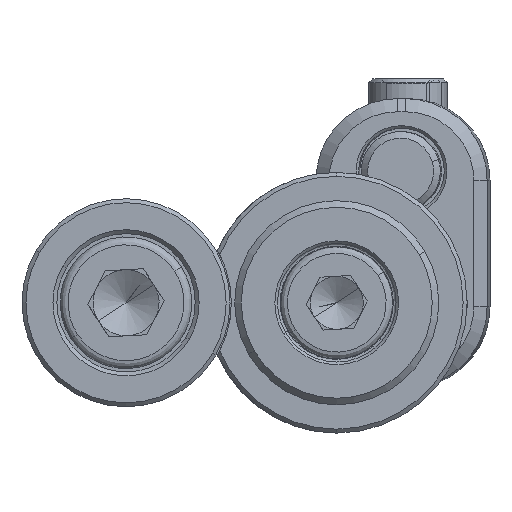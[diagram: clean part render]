
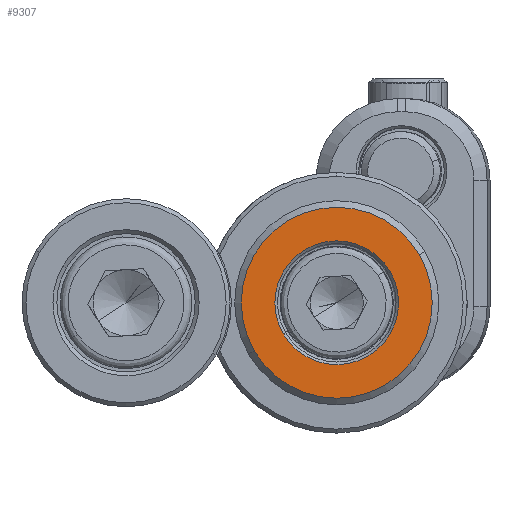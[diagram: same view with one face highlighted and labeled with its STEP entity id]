
A CAD part, front view. The second image highlights one B-rep face of the part: STEP entity #9307.
In plain terms, the highlighted planar face has unit normal (0, -1, 0).
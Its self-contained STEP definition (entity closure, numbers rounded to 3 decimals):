
#14 = DIRECTION ( 'NONE',  ( 0., 1., 0. ) ) ;
#100 = VERTEX_POINT ( 'NONE', #8337 ) ;
#398 = EDGE_CURVE ( 'NONE', #9490, #12306, #13452, .T. ) ;
#536 = DIRECTION ( 'NONE',  ( -0.865, 0., -0.503 ) ) ;
#756 = CIRCLE ( 'NONE', #3047, 7.25 ) ;
#1258 = FACE_BOUND ( 'NONE', #8145, .T. ) ;
#1328 = DIRECTION ( 'NONE',  ( -0.865, 0., -0.503 ) ) ;
#2067 = EDGE_CURVE ( 'NONE', #12306, #9490, #756, .T. ) ;
#2195 = DIRECTION ( 'NONE',  ( 0., 1., 0. ) ) ;
#2501 = ORIENTED_EDGE ( 'NONE', *, *, #11609, .T. ) ;
#2568 = EDGE_LOOP ( 'NONE', ( #3401, #5675 ) ) ;
#3047 = AXIS2_PLACEMENT_3D ( 'NONE', #7030, #10502, #7094 ) ;
#3400 = DIRECTION ( 'NONE',  ( -0.865, 0., -0.503 ) ) ;
#3401 = ORIENTED_EDGE ( 'NONE', *, *, #2067, .T. ) ;
#3555 = EDGE_CURVE ( 'NONE', #14048, #100, #4235, .T. ) ;
#4235 = CIRCLE ( 'NONE', #7894, 4.7 ) ;
#5059 = AXIS2_PLACEMENT_3D ( 'NONE', #8128, #11438, #536 ) ;
#5621 = PLANE ( 'NONE',  #6528 ) ;
#5675 = ORIENTED_EDGE ( 'NONE', *, *, #398, .T. ) ;
#6528 = AXIS2_PLACEMENT_3D ( 'NONE', #9614, #2195, #3400 ) ;
#6596 = AXIS2_PLACEMENT_3D ( 'NONE', #12102, #9820, #1328 ) ;
#6602 = CARTESIAN_POINT ( 'NONE',  ( -6.268, -4., -3.643 ) ) ;
#6881 = CARTESIAN_POINT ( 'NONE',  ( 6.268, -4., 3.643 ) ) ;
#7030 = CARTESIAN_POINT ( 'NONE',  ( 0., -4., 0. ) ) ;
#7094 = DIRECTION ( 'NONE',  ( -0.865, 0., -0.503 ) ) ;
#7700 = DIRECTION ( 'NONE',  ( -0.865, 0., -0.503 ) ) ;
#7894 = AXIS2_PLACEMENT_3D ( 'NONE', #10691, #14, #7700 ) ;
#7906 = ORIENTED_EDGE ( 'NONE', *, *, #3555, .T. ) ;
#8128 = CARTESIAN_POINT ( 'NONE',  ( 0., -4., 0. ) ) ;
#8145 = EDGE_LOOP ( 'NONE', ( #2501, #7906 ) ) ;
#8337 = CARTESIAN_POINT ( 'NONE',  ( 4.063, -4., 2.362 ) ) ;
#9307 = ADVANCED_FACE ( 'NONE', ( #1258, #11160 ), #5621, .F. ) ;
#9490 = VERTEX_POINT ( 'NONE', #6881 ) ;
#9614 = CARTESIAN_POINT ( 'NONE',  ( 2.261, -4., -3.891 ) ) ;
#9820 = DIRECTION ( 'NONE',  ( 0., -1., 0. ) ) ;
#10387 = CARTESIAN_POINT ( 'NONE',  ( -4.063, -4., -2.362 ) ) ;
#10502 = DIRECTION ( 'NONE',  ( 0., -1., 0. ) ) ;
#10691 = CARTESIAN_POINT ( 'NONE',  ( 0., -4., 0. ) ) ;
#11160 = FACE_OUTER_BOUND ( 'NONE', #2568, .T. ) ;
#11254 = CIRCLE ( 'NONE', #5059, 4.7 ) ;
#11438 = DIRECTION ( 'NONE',  ( 0., 1., 0. ) ) ;
#11609 = EDGE_CURVE ( 'NONE', #100, #14048, #11254, .T. ) ;
#12102 = CARTESIAN_POINT ( 'NONE',  ( 0., -4., 0. ) ) ;
#12306 = VERTEX_POINT ( 'NONE', #6602 ) ;
#13452 = CIRCLE ( 'NONE', #6596, 7.25 ) ;
#14048 = VERTEX_POINT ( 'NONE', #10387 ) ;
